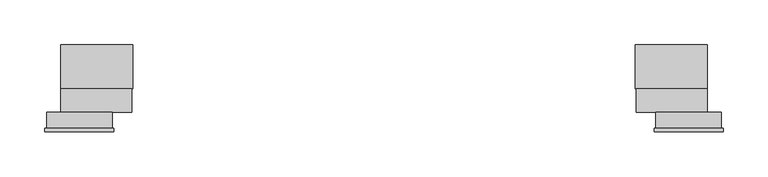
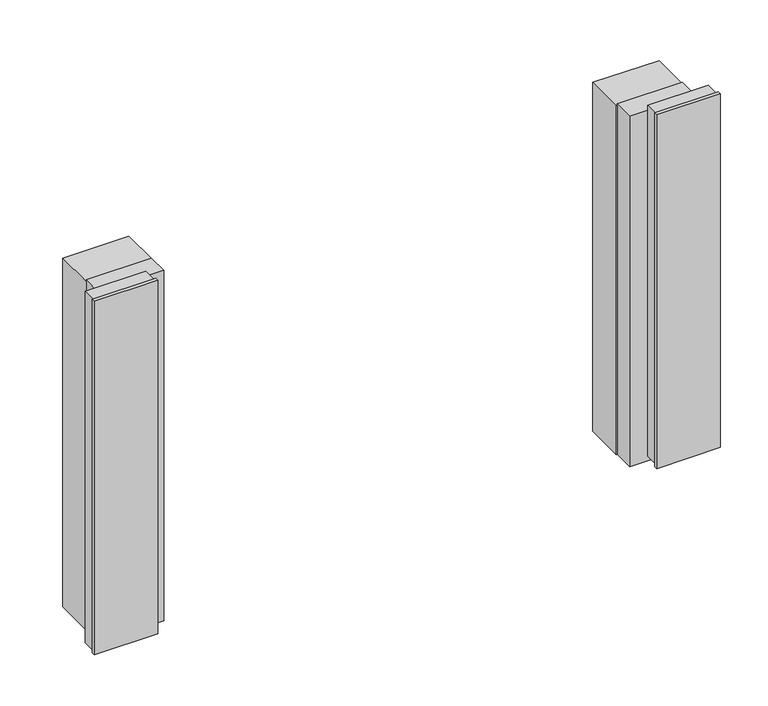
"""IFC4 building model written with IfcOpenShell, lengths in millimetres: proxy geometry, 11410790_USA_EBA7848_BRWS : 29992963_USA_11410790_EBA7848_BRWS."""

import ifcopenshell
import ifcopenshell.guid

model = None  # the IFC model being written
_history = None  # IfcOwnerHistory: only IFC2X3 demands one
_inside = {}  # id of a spatial element -> (the spatial element, [elements in it])
_under = {}  # id of a project, library or spatial element -> (it, [spatial elements below it])
_declared = {}  # id of a project -> (the project, [libraries it declares])
_typed = {}  # id of a type object -> (the type object, [elements of that type])
_made_of = {}  # id of a material, layer set ... -> (it, [elements and type objects made of it])


def new_model(schema):
    """Start an empty IFC model of exactly this schema.

    Asked for "IFC4X3", IfcOpenShell would pick the latest addendum, in which some entities
    have other attributes; the version numbers below select the first issue.
    IFC2X3 requires an IfcOwnerHistory on every rooted entity: one is made here for all.
    """
    global model, _history
    if schema == "IFC4X3":
        model = ifcopenshell.file(schema_version=(4, 3, 0, 0))
    else:
        model = ifcopenshell.file(schema=schema)
    _inside.clear()
    _under.clear()
    _declared.clear()
    _typed.clear()
    _made_of.clear()
    _history = None
    if model.schema == "IFC2X3":
        org = make("IfcOrganization", Name="unknown")
        user = make(
            "IfcPersonAndOrganization",
            ThePerson=make("IfcPerson", FamilyName="unknown"),
            TheOrganization=org,
        )
        app = make(
            "IfcApplication",
            ApplicationDeveloper=org,
            Version="unknown",
            ApplicationFullName="unknown",
            ApplicationIdentifier="unknown",
        )
        _history = make(
            "IfcOwnerHistory",
            OwningUser=user,
            OwningApplication=app,
            ChangeAction="ADDED",
            CreationDate=0,
        )
    return model


def make(cls, **values):
    """One entity of the class cls with the attributes given. An attribute that is None is left unset."""
    return model.create_entity(
        cls, **{name: value for name, value in values.items() if value is not None}
    )


def rooted(cls, **values):
    """An entity with a GlobalId (a new one), such as an element, a storey or a relation."""
    return make(cls, GlobalId=ifcopenshell.guid.new(), OwnerHistory=_history, **values)


def si_unit(unit_type, name, prefix=None):
    """IfcSIUnit, for example si_unit("LENGTHUNIT", "METRE", prefix="MILLI")."""
    return make("IfcSIUnit", UnitType=unit_type, Prefix=prefix, Name=name)


def assignment(units):
    """IfcUnitAssignment: the units of a project."""
    return None if units is None else make("IfcUnitAssignment", Units=units)


def point(xyz):
    """IfcCartesianPoint."""
    return None if xyz is None else make("IfcCartesianPoint", Coordinates=xyz)


def direction(xyz):
    """IfcDirection."""
    return None if xyz is None else make("IfcDirection", DirectionRatios=xyz)


def frame(location, z_axis=None, x_axis=None):
    """IfcAxis2Placement3D, a coordinate frame: its origin and axes. An axis left out is left unset."""
    return make(
        "IfcAxis2Placement3D",
        Location=point(location),
        Axis=direction(z_axis),
        RefDirection=direction(x_axis),
    )


def origin():
    """The frame at (0, 0, 0) with its axes left unset."""
    return frame((0.0, 0.0, 0.0))


def origin_with_axes():
    """The frame at (0, 0, 0) with the z axis (0, 0, 1) and the x axis (1, 0, 0) written out."""
    return frame((0.0, 0.0, 0.0), z_axis=(0.0, 0.0, 1.0), x_axis=(1.0, 0.0, 0.0))


def place(relative_to, where):
    """IfcLocalPlacement: puts the frame where relative to a parent placement (None: the world)."""
    return make(
        "IfcLocalPlacement", PlacementRelTo=relative_to, RelativePlacement=where
    )


def context(
    kind, dimensions, precision=None, world=None, true_north=None, identifier=None
):
    """IfcGeometricRepresentationContext, for example the 3D "Model" context."""
    return make(
        "IfcGeometricRepresentationContext",
        ContextIdentifier=identifier,
        ContextType=kind,
        CoordinateSpaceDimension=dimensions,
        Precision=precision,
        WorldCoordinateSystem=world,
        TrueNorth=true_north,
    )


def project(units=None, contexts=None):
    """IfcProject with its units and contexts."""
    return rooted(
        "IfcProject",
        Name="project",
        RepresentationContexts=contexts,
        UnitsInContext=assignment(units),
    )


def spatial(cls, under=None, at=None, **own):
    """A site, building, storey or space (cls), placed at a placement, below another one or the project."""
    s = rooted(cls, ObjectPlacement=at, **own)
    if under is not None:
        _under.setdefault(under.id(), (under, []))[1].append(s)
    return s


def polyline(points):
    """IfcPolyline through the points."""
    return make("IfcPolyline", Points=[point(p) for p in points])


def outline(outer, holes=None, kind="AREA"):
    """IfcArbitraryClosedProfileDef: a profile drawn as a closed curve; with holes, ...WithVoids."""
    if holes is None:
        return make("IfcArbitraryClosedProfileDef", ProfileType=kind, OuterCurve=outer)
    return make(
        "IfcArbitraryProfileDefWithVoids",
        ProfileType=kind,
        OuterCurve=outer,
        InnerCurves=holes,
    )


def extrude(swept, where, along, depth):
    """IfcExtrudedAreaSolid: the profile swept, set in the frame where, extruded along a direction by depth."""
    return make(
        "IfcExtrudedAreaSolid",
        SweptArea=swept,
        Position=where,
        ExtrudedDirection=direction(along),
        Depth=depth,
    )


def shape(context_of_items, identifier, shape_type, items):
    """IfcShapeRepresentation: the items that make up one representation, for example the "Body"."""
    return make(
        "IfcShapeRepresentation",
        ContextOfItems=context_of_items,
        RepresentationIdentifier=identifier,
        RepresentationType=shape_type,
        Items=items,
    )


def source(mapping_origin, context_of_items, identifier, shape_type, items):
    """IfcRepresentationMap: a shape defined once, which mapped items show again and again."""
    return make(
        "IfcRepresentationMap",
        MappingOrigin=mapping_origin,
        MappedRepresentation=shape(context_of_items, identifier, shape_type, items),
    )


def transform(
    local_origin,
    x_axis=None,
    y_axis=None,
    z_axis=None,
    scale=None,
    scale2=None,
    scale3=None,
    uniform=True,
):
    """IfcCartesianTransformationOperator3D, or its non-uniform kind. x_axis, y_axis, z_axis: its Axis1, 2, 3."""
    if uniform:
        return make(
            "IfcCartesianTransformationOperator3D",
            Axis1=direction(x_axis),
            Axis2=direction(y_axis),
            LocalOrigin=point(local_origin),
            Scale=scale,
            Axis3=direction(z_axis),
        )
    return make(
        "IfcCartesianTransformationOperator3DnonUniform",
        Axis1=direction(x_axis),
        Axis2=direction(y_axis),
        LocalOrigin=point(local_origin),
        Scale=scale,
        Axis3=direction(z_axis),
        Scale2=scale2,
        Scale3=scale3,
    )


def mapped(mapping_source, mapping_target):
    """IfcMappedItem: shows the shape of a source again, moved by a transform."""
    return make(
        "IfcMappedItem", MappingSource=mapping_source, MappingTarget=mapping_target
    )


def made_of(thing, what):
    """Note that an element or type object is made of a material, layer set ...; save() writes the relation."""
    if what is not None:
        _made_of.setdefault(what.id(), (what, []))[1].append(thing)
    return thing


def element(
    cls,
    number,
    at=None,
    inside=None,
    cuts=None,
    type_object=None,
    material=None,
    context=None,
    identifier="Body",
    shape_type=None,
    held_by="IfcProductDefinitionShape",
    body=None,
    shapes=None,
    **own,
):
    """One element of the class cls, such as IfcWall. Its Tag is "e" and its number.

    at: its placement. inside: the storey or other place that contains it. cuts: it is an
    opening in that element (IfcRelVoidsElement). A single representation is given by context,
    identifier, shape_type and body (its items); several are given by shapes. held_by: the class
    of the entity that holds the representations. save() writes the other relations.
    """
    e = rooted(cls, Tag="e%d" % number, ObjectPlacement=at, **own)
    if body is not None:
        shapes = [shape(context, identifier, shape_type, body)]
    if shapes is not None:
        e.Representation = make(held_by, Representations=shapes)
    if inside is not None:
        _inside.setdefault(inside.id(), (inside, []))[1].append(e)
    if cuts is not None:
        rooted(
            "IfcRelVoidsElement", RelatingBuildingElement=cuts, RelatedOpeningElement=e
        )
    if type_object is not None:
        _typed.setdefault(type_object.id(), (type_object, []))[1].append(e)
    return made_of(e, material)


def aggregate(whole, parts):
    """IfcRelAggregates: a whole, such as a stair, and the parts it consists of."""
    return rooted("IfcRelAggregates", RelatingObject=whole, RelatedObjects=parts)


def save(model, path):
    """Write the relations noted so far, then the file.

    IfcRelAggregates (storeys below a building ...), IfcRelContainedInSpatialStructure (elements
    in a storey), IfcRelDefinesByType, IfcRelAssociatesMaterial and IfcRelDeclares: one each for
    every whole, place, type object, material and project.
    """
    for whole, parts in _under.values():
        aggregate(whole, parts)
    for where, things in _inside.values():
        rooted(
            "IfcRelContainedInSpatialStructure",
            RelatedElements=things,
            RelatingStructure=where,
        )
    for kind, things in _typed.values():
        rooted("IfcRelDefinesByType", RelatedObjects=things, RelatingType=kind)
    for what, things in _made_of.values():
        rooted("IfcRelAssociatesMaterial", RelatedObjects=things, RelatingMaterial=what)
    for by, libraries in _declared.values():
        rooted("IfcRelDeclares", RelatingContext=by, RelatedDefinitions=libraries)
    model.write(path)


def specialty_equipment_e63359cc(model_context):
    return source(origin(), model_context, "Body", "SweptSolid", [
        extrude(outline(polyline([(-376.5, 0.0), (-303.5, 0.0), (-303.5, -18.0), (-376.5, -18.0), (-376.5, 0.0)])), frame((0.0, 0.0, 5.5), z_axis=(0.0, 0.0, 1.0), x_axis=(1.0, 0.0, 0.0)), (0.0, 0.0, 1.0), 449.0),
        extrude(outline(polyline([(303.5, 0.0), (376.5, 0.0), (376.5, -18.0), (303.5, -18.0), (303.5, 0.0)])), frame((0.0, 0.0, 5.5), z_axis=(0.0, 0.0, 1.0), x_axis=(1.0, 0.0, 0.0)), (0.0, 0.0, 1.0), 449.0),
        extrude(outline(polyline([(-378.5, -18.0), (-301.5, -18.0), (-301.5, -22.0), (-378.5, -22.0), (-378.5, -18.0)])), frame((0.0, 0.0, 4.0), z_axis=(0.0, 0.0, 1.0), x_axis=(1.0, 0.0, 0.0)), (0.0, 0.0, 1.0), 452.0),
        extrude(outline(polyline([(301.5, -18.0), (378.5, -18.0), (378.5, -22.0), (301.5, -22.0), (301.5, -18.0)])), frame((0.0, 0.0, 4.0), z_axis=(0.0, 0.0, 1.0), x_axis=(1.0, 0.0, 0.0)), (0.0, 0.0, 1.0), 452.0),
        extrude(outline(polyline([(280.5, 75.0), (360.5, 75.0), (360.5, 26.0), (280.5, 26.0), (280.5, 75.0)])), origin_with_axes(), (0.0, 0.0, 1.0), 446.0),
        extrude(outline(polyline([(-360.5, 75.0), (-280.5, 75.0), (-280.5, 26.0), (-360.5, 26.0), (-360.5, 75.0)])), origin_with_axes(), (0.0, 0.0, 1.0), 446.0),
        extrude(outline(polyline([(281.5, 26.0), (360.5, 26.0), (360.5, 0.0), (281.5, 0.0), (281.5, 26.0)])), origin_with_axes(), (0.0, 0.0, 1.0), 448.0),
        extrude(outline(polyline([(-360.5, 26.0), (-281.5, 26.0), (-281.5, 0.0), (-360.5, 0.0), (-360.5, 26.0)])), origin_with_axes(), (0.0, 0.0, 1.0), 448.0),
    ])


if __name__ == "__main__":
    model = new_model("IFC4")
    model_context = context("Model", 3, world=origin())
    ifc_project = project(units=[si_unit("LENGTHUNIT", "METRE", prefix="MILLI")], contexts=[model_context])
    site = spatial("IfcSite", under=ifc_project)
    building = spatial("IfcBuilding", under=site)
    placement = place(None, origin())
    specialty_equipment_shape = specialty_equipment_e63359cc(model_context)
    element("IfcBuildingElementProxy", 1, Name="11410790_USA_EBA7848_BRWS : 29992963_USA_11410790_EBA7848_BRWS", ObjectType="11410790_USA_EBA7848_BRWS : 29992963_USA_11410790_EBA7848_BRWS", at=placement, inside=building, context=model_context, shape_type="MappedRepresentation", body=[
        mapped(specialty_equipment_shape, transform((0.0, 0.0, 0.0), x_axis=(1.0, 0.0, 0.0), y_axis=(0.0, 1.0, 0.0), z_axis=(0.0, 0.0, 1.0))),
    ])
    save(model, "model.ifc")
